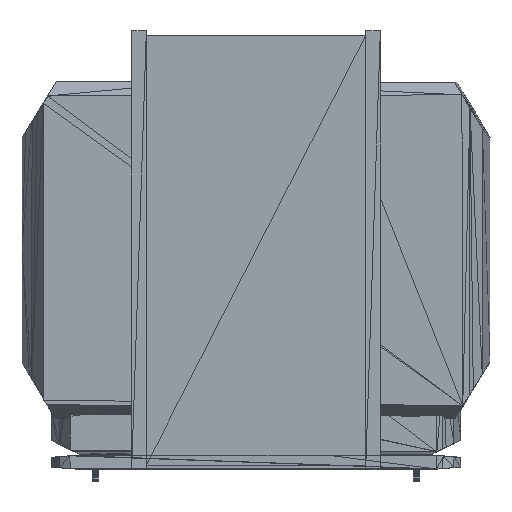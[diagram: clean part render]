
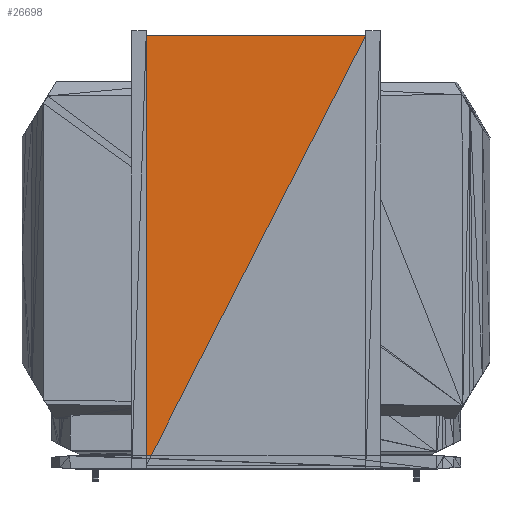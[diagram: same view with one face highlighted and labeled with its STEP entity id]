
A CAD part, left-side view. The second image highlights one B-rep face of the part: STEP entity #26698.
In plain terms, the highlighted planar face has unit normal (-1, 0, 0).
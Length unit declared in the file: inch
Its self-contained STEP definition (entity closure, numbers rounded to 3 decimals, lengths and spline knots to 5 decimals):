
#26582=CARTESIAN_POINT('',(-1.625,0.93749,0.03769));
#26583=VERTEX_POINT('',#26582);
#26635=CARTESIAN_POINT('',(-1.625,0.93674,3.71269));
#26636=VERTEX_POINT('',#26635);
#26651=CARTESIAN_POINT('',(-1.625,0.93749,0.03769));
#26652=DIRECTION('',(0.,0.,1.));
#26653=VECTOR('',#26652,3.675);
#26654=LINE('',#26651,#26653);
#26655=EDGE_CURVE('',#26583,#26636,#26654,.T.);
#26676=CARTESIAN_POINT('',(-1.625,-0.93826,3.71231));
#26677=DIRECTION('',(1.,0.,0.));
#26678=DIRECTION('',(0.,1.,0.));
#26679=AXIS2_PLACEMENT_3D('',#26676,#26677,#26678);
#26680=PLANE('',#26679);
#26681=CARTESIAN_POINT('',(-1.625,-0.93826,3.71231));
#26682=VERTEX_POINT('',#26681);
#26683=CARTESIAN_POINT('',(-1.625,-0.93826,3.71231));
#26684=DIRECTION('',(0.,1.,0.));
#26685=VECTOR('',#26684,1.875);
#26686=LINE('',#26683,#26685);
#26687=EDGE_CURVE('',#26682,#26636,#26686,.T.);
#26688=ORIENTED_EDGE('',*,*,#26687,.T.);
#26689=ORIENTED_EDGE('',*,*,#26655,.F.);
#26690=CARTESIAN_POINT('',(-1.625,0.93749,0.03769));
#26691=DIRECTION('',(0.,-0.455,0.891));
#26692=VECTOR('',#26691,4.12568);
#26693=LINE('',#26690,#26692);
#26694=EDGE_CURVE('',#26583,#26682,#26693,.T.);
#26695=ORIENTED_EDGE('',*,*,#26694,.T.);
#26696=EDGE_LOOP('',(#26688,#26689,#26695));
#26697=FACE_BOUND('',#26696,.T.);
#26698=ADVANCED_FACE('',(#26697),#26680,.F.);
